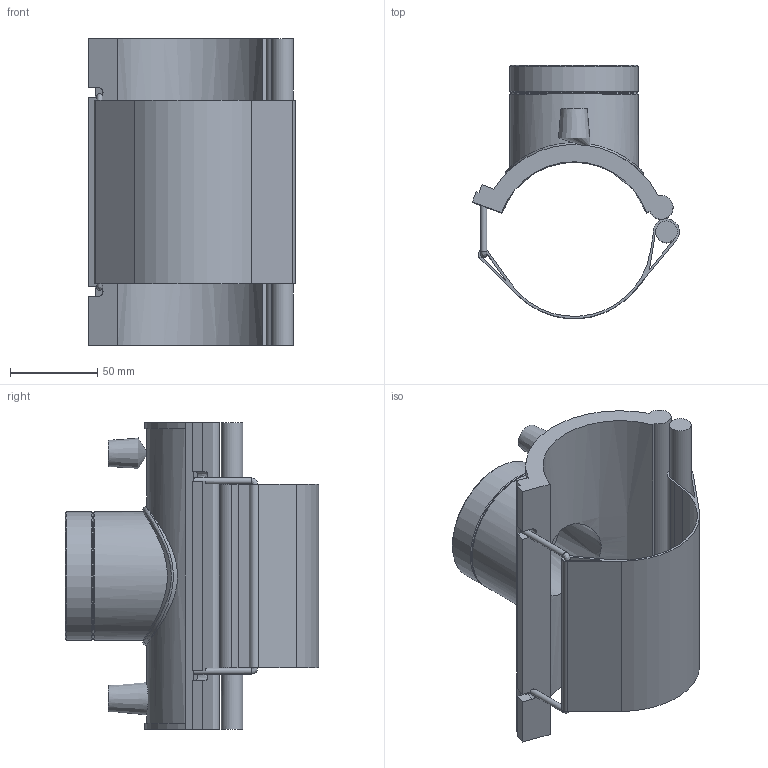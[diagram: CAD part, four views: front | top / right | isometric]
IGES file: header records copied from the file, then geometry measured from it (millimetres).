
Global section: file name: 5938B00303070.ipt; native system: Autodesk Inventor 2019; preprocessor: unknown; author: KIM; date: 20210830.101053; units: inch
Bounding box: 118.87 x 145.57 x 176.02 mm (x, y, z)
Volume: 371544.8 mm3; surface area: 127711.9 mm2
Topology: 1 solids, 2 shells, 78 faces, 198 edges, 128 vertices
Faces by surface type: plane 42, cylinder 19, revolution 11, cone 5, bspline 1
Full cylindrical faces by diameter (mm): 3.548 x2, 4 x2, 12.35 x1, 72.653 x1, 73.653 x2, 79.318 x1
